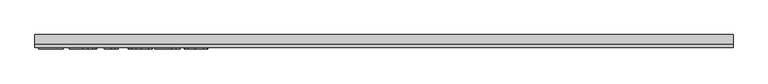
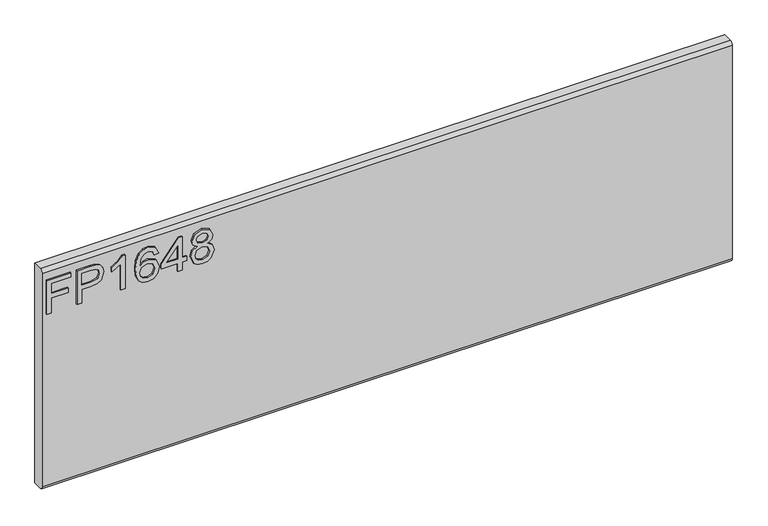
"""IFC4 building model written with IfcOpenShell, lengths in millimetres: furniture geometry."""

from ifc_helpers import new_model, si_unit, frame, origin, place, context, project, spatial, polyline, circle_curve, outline, extrude, source, transform, mapped, element, save
from ifc_brep_helpers import plane_surface, cylinder_surface, advanced_brep


def furniture_1e165847(model_context):
    return source(origin(), model_context, "Body", "SolidModel", [
        extrude(outline(polyline([(1289.05, -596.4115385), (1289.05, -588.5961538), (1317.3807692, -588.5961538), (1317.3807692, -559.2884615), (1325.1961538, -559.2884615), (1325.1961538, -588.5961538), (1343.7576923, -588.5961538), (1343.7576923, -554.4038462), (1351.5730769, -554.4038462), (1351.5730769, -596.4115385), (1289.05, -596.4115385)])), frame((0.0, -15.0812439, 0.0), z_axis=(0.0, 1.0, 0.0), x_axis=(0.0, 0.0, 1.0)), (0.0, 0.0, 1.0), 2.38125),
        extrude(outline(polyline([(1289.05, -543.6576923), (1289.05, -535.8423077), (1314.45, -535.8423077), (1314.45, -519.9520433), (1315.8314303, -508.8490835), (1319.9757212, -501.795012), (1333.4847356, -496.7653846), (1342.0099159, -498.6276442), (1348.0546274, -503.5504207), (1350.9777644, -511.1444712), (1351.5730769, -520.4862981), (1351.5730769, -543.6576923), (1289.05, -543.6576923)]), holes=[polyline([(1322.2653846, -535.8423077), (1343.7576923, -535.8423077), (1343.7576923, -519.6772837), (1343.2234375, -511.861899), (1339.6820913, -506.5880409), (1333.209976, -504.5807692), (1325.1350962, -507.9847356), (1322.2653846, -519.4941106), (1322.2653846, -535.8423077)])]), frame((0.0, -15.0812439, 0.0), z_axis=(0.0, 1.0, 0.0), x_axis=(0.0, 0.0, 1.0)), (0.0, 0.0, 1.0), 2.38125),
        extrude(outline(polyline([(1289.05, -459.6423077), (1351.5730769, -459.6423077), (1351.5730769, -464.6795673), (1343.2539663, -471.632512), (1335.9423077, -483.0884615), (1328.5543269, -483.0884615), (1332.5001803, -474.8609375), (1337.7740385, -467.4576923), (1289.05, -467.4576923), (1289.05, -459.6423077)])), frame((0.0, -15.0812439, 0.0), z_axis=(0.0, 1.0, 0.0), x_axis=(0.0, 0.0, 1.0)), (0.0, 0.0, 1.0), 2.38125),
        extrude(outline(polyline([(1334.9653846, -401.0269231), (1347.1616587, -406.796875), (1351.5730769, -419.1457933), (1349.7909555, -428.2166767), (1344.4445913, -435.2192308), (1333.8014724, -440.3480769), (1318.2355769, -442.0576923), (1304.3907452, -440.5178936), (1295.0947115, -435.8984976), (1289.8284856, -428.8367939), (1288.0730769, -419.9700721), (1290.7214543, -409.7276442), (1298.3536659, -402.6296875), (1309.1379808, -400.05), (1323.5323317, -405.5299279), (1329.1038462, -418.809976), (1327.0660457, -427.3504207), (1320.8305288, -434.2423077), (1334.7593149, -432.0213341), (1341.8649038, -426.6864183), (1343.7576923, -419.6342548), (1340.5063702, -411.8036058), (1333.9884615, -408.8423077), (1334.9653846, -401.0269231)]), holes=[polyline([(1309.2600962, -434.2423077), (1317.9684495, -430.357512), (1321.2884615, -420.9012019), (1317.9684495, -411.3227764), (1308.8784856, -407.8653846), (1299.3840144, -411.3685697), (1295.8884615, -420.580649), (1297.5751803, -427.6251803), (1302.4903245, -432.4334736), (1309.2600962, -434.2423077)])]), frame((0.0, -15.0812439, 0.0), z_axis=(0.0, 1.0, 0.0), x_axis=(0.0, 0.0, 1.0)), (0.0, 0.0, 1.0), 2.38125),
        extrude(outline(polyline([(1289.05, -367.8115385), (1289.05, -359.9961538), (1303.7038462, -359.9961538), (1303.7038462, -352.1807692), (1311.5192308, -352.1807692), (1311.5192308, -359.9961538), (1350.5961538, -359.9961538), (1350.5961538, -365.8576923), (1311.5192308, -396.1423077), (1303.7038462, -396.1423077), (1303.7038462, -367.8115385), (1289.05, -367.8115385)]), holes=[polyline([(1311.5192308, -367.8115385), (1311.5192308, -386.5257212), (1335.6675481, -367.8115385), (1311.5192308, -367.8115385)])]), frame((0.0, -15.0812439, 0.0), z_axis=(0.0, 1.0, 0.0), x_axis=(0.0, 0.0, 1.0)), (0.0, 0.0, 1.0), 2.38125),
        extrude(outline(polyline([(1323.4865385, -333.9550481), (1317.8081731, -342.3810096), (1307.4588942, -345.3423077), (1293.6216947, -339.6944712), (1289.4602314, -333.1536659), (1288.0730769, -324.8269231), (1289.4545072, -316.5001803), (1293.5987981, -309.959375), (1307.2451923, -304.3115385), (1317.3578726, -307.1583534), (1323.4865385, -315.4698317), (1328.3177284, -308.5474159), (1335.6828125, -306.2653846), (1346.9479567, -311.3942308), (1351.5730769, -324.933774), (1347.0548077, -338.3512019), (1335.8965144, -343.3884615), (1328.340625, -341.0759014), (1323.4865385, -333.9550481)]), holes=[polyline([(1335.6675481, -335.5730769), (1341.3764423, -332.7567909), (1343.7576923, -324.8269231), (1341.3230168, -316.9199519), (1335.3164663, -314.0807692), (1329.5159856, -316.8283654), (1327.15, -324.7353365), (1329.53125, -332.8025841), (1335.6675481, -335.5730769)]), polyline([(1307.7336538, -337.5269231), (1316.0222356, -334.2221755), (1319.3346154, -325.0253606), (1315.9764423, -315.5614183), (1307.4894231, -312.1269231), (1299.1626803, -315.4545673), (1295.8884615, -324.7658654), (1297.4454327, -331.6043269), (1301.8492188, -336.2218149), (1307.7336538, -337.5269231)])]), frame((0.0, -15.0812439, 0.0), z_axis=(0.0, 1.0, 0.0), x_axis=(0.0, 0.0, 1.0)), (0.0, 0.0, 1.0), 2.38125),
        advanced_brep(
        [(603.25, 9.5250061, 1371.6), (603.25, -6.7309939, 1371.6), (603.25, -12.6999939, 1365.631), (603.25, -12.6999939, 971.169), (603.25, -6.7309939, 965.2), (603.25, 9.5250061, 965.2), (-603.25, 9.5250061, 1371.6), (-603.25, 9.5250061, 965.2), (-603.25, -6.7309939, 965.2), (-603.25, -12.6999939, 971.169), (-603.25, -12.6999939, 1365.6310121), (-603.25, -6.7309939, 1371.6)],
        [
            (0, 1),
            (1, 2, circle_curve(frame((603.25, -6.7309939, 1365.631), z_axis=(1.0, 0.0, 0.0), x_axis=(0.0, 1.0, 0.0)), 5.969)),
            (2, 3),
            (3, 4, circle_curve(frame((603.25, -6.7309939, 971.169), z_axis=(1.0, 0.0, 0.0), x_axis=(0.0, 1.0, 0.0)), 5.969)),
            (4, 5),
            (5, 0),
            (6, 7),
            (7, 8),
            (8, 9, circle_curve(frame((-603.25, -6.7309939, 971.169), z_axis=(-1.0, 0.0, 0.0), x_axis=(0.0, 1.0, 0.0)), 5.969)),
            (9, 10),
            (10, 11, circle_curve(frame((-603.25, -6.7309939, 1365.631), z_axis=(-1.0, 0.0, 0.0), x_axis=(0.0, 1.0, 0.0)), 5.969)),
            (11, 6),
            (0, 6),
            (11, 1),
            (10, 2),
            (9, 3),
            (8, 4),
            (7, 5),
        ],
        [
            plane_surface(frame((603.25, -6.7309939, 1371.6), z_axis=(1.0, 0.0, 0.0), x_axis=(0.0, -1.0, 0.0))),
            plane_surface(frame((-603.25, -6.7309939, 1371.6), z_axis=(-1.0, 0.0, 0.0), x_axis=(0.0, 1.0, 0.0))),
            plane_surface(frame((603.25, 9.5250061, 1371.6), z_axis=(0.0, 0.0, 1.0), x_axis=(-1.0, 0.0, 0.0))),
            cylinder_surface(frame((-603.25, -6.7309939, 1365.631), z_axis=(1.0, 0.0, 0.0), x_axis=(0.0, 1.0, 0.0)), 5.969),
            plane_surface(frame((603.25, -12.6999939, 1365.6310121), z_axis=(0.0, -1.0, 0.0), x_axis=(-1.0, 0.0, 0.0))),
            cylinder_surface(frame((-603.25, -6.7309939, 971.169), z_axis=(1.0, 0.0, 0.0), x_axis=(0.0, 1.0, 0.0)), 5.969),
            plane_surface(frame((603.25, -6.7309939, 965.2), z_axis=(0.0, 0.0, -1.0), x_axis=(-1.0, 0.0, 0.0))),
            plane_surface(frame((603.25, 9.5250061, 965.2), z_axis=(0.0, 1.0, 0.0), x_axis=(-1.0, 0.0, 0.0))),
        ],
        [
            (0, [[1, 2, 3, 4, 5, 6]]),
            (1, [[7, 8, 9, 10, 11, 12]]),
            (2, [[-1, 13, -12, 14]]),
            (3, [[-2, -14, -11, 15]]),
            (4, [[-3, -15, -10, 16]]),
            (5, [[-4, -16, -9, 17]]),
            (6, [[-5, -17, -8, 18]]),
            (7, [[-6, -18, -7, -13]]),
        ],
    ),
    ])


if __name__ == "__main__":
    model = new_model("IFC4")
    model_context = context("Model", 3, world=origin())
    ifc_project = project(units=[si_unit("LENGTHUNIT", "METRE", prefix="MILLI")], contexts=[model_context])
    site = spatial("IfcSite", under=ifc_project)
    building = spatial("IfcBuilding", under=site)
    placement = place(None, origin())
    furniture_shape = furniture_1e165847(model_context)
    element("IfcFurniture", 1, ObjectType="HermanMiller_Ethospace_E1420_FaceTile : Ptd 16\"H x 48\"W", at=placement, inside=building, context=model_context, shape_type="MappedRepresentation", body=[
        mapped(furniture_shape, transform((0.0, 0.0, 0.0), x_axis=(1.0, 0.0, 0.0), y_axis=(0.0, 1.0, 0.0), z_axis=(0.0, 0.0, 1.0))),
    ])
    save(model, "model.ifc")
